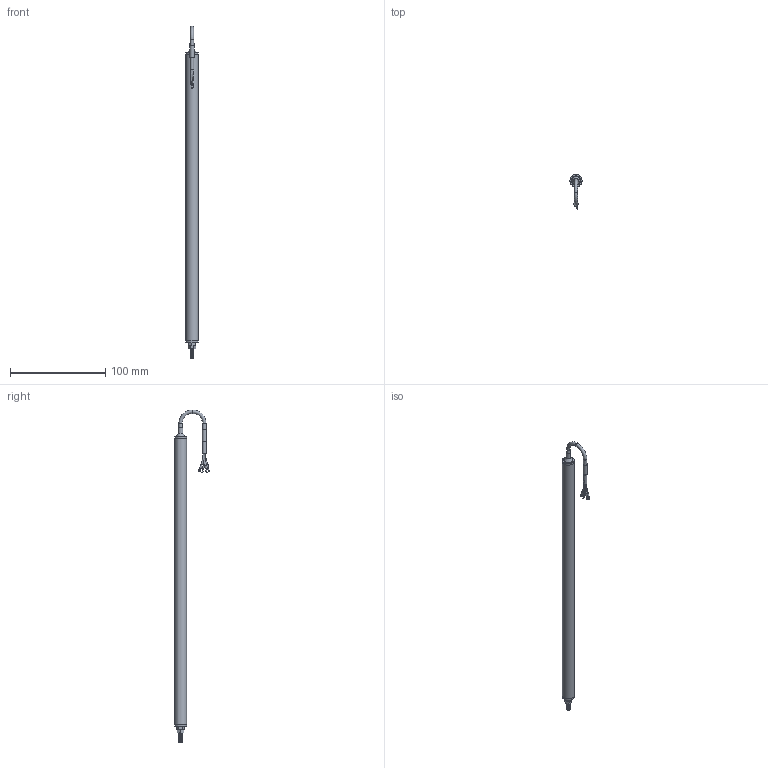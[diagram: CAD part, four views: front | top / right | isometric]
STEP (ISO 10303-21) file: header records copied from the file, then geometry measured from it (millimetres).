
FILE_DESCRIPTION(/* description */ (''),/* implementation_level */ '2;1');
FILE_NAME(/* name */ 'LPPS-12-250-A Assembly (wrapped).step',/* time_stamp */ '2023-10-10T09:59:32-04:00',/* author */ ('TSC_Grant'),/* organization */ (''),/* preprocessor_version */ 'ST-DEVELOPER v19.2',/* originating_system */ 'Autodesk Inventor 2024',/* authorisation */ '');
FILE_SCHEMA (('AUTOMOTIVE_DESIGN { 1 0 10303 214 3 1 1 }'));
Length unit declared in the file: inch
Products named in the file (4): LPPS-12-010-A Assembly (wrapped); LPPS-12-010-A Body (wrapped); LPPS-12-010-A Assembly_Simplify_1; Wire
Assembly tree (3 placements, depth 2):
  LPPS-12-010-A Assembly (wrapped)
    LPPS-12-010-A Body (wrapped)
    LPPS-12-010-A Assembly_Simplify_1
    Wire
Bounding box: 12.7 x 36.8 x 349.24 mm (x, y, z)
Volume: 39474.3 mm3; surface area: 21802 mm2
Topology: 13 solids, 13 shells, 133 faces, 286 edges, 190 vertices
Faces by surface type: plane 75, cylinder 44, bspline 8, torus 5, cone 1
Full cylindrical faces by diameter (mm): 1.016 x3, 1.27 x1, 1.524 x3, 1.651 x2, 3.632 x6, 3.937 x8, 4.191 x1, 4.445 x1, 4.826 x1, 12.7 x3
Entity records: 5483 total; most frequent: CARTESIAN_POINT 2222, DIRECTION 619, ORIENTED_EDGE 572, EDGE_CURVE 286, AXIS2_PLACEMENT_3D 236, VERTEX_POINT 190, EDGE_LOOP 150, LINE 147
